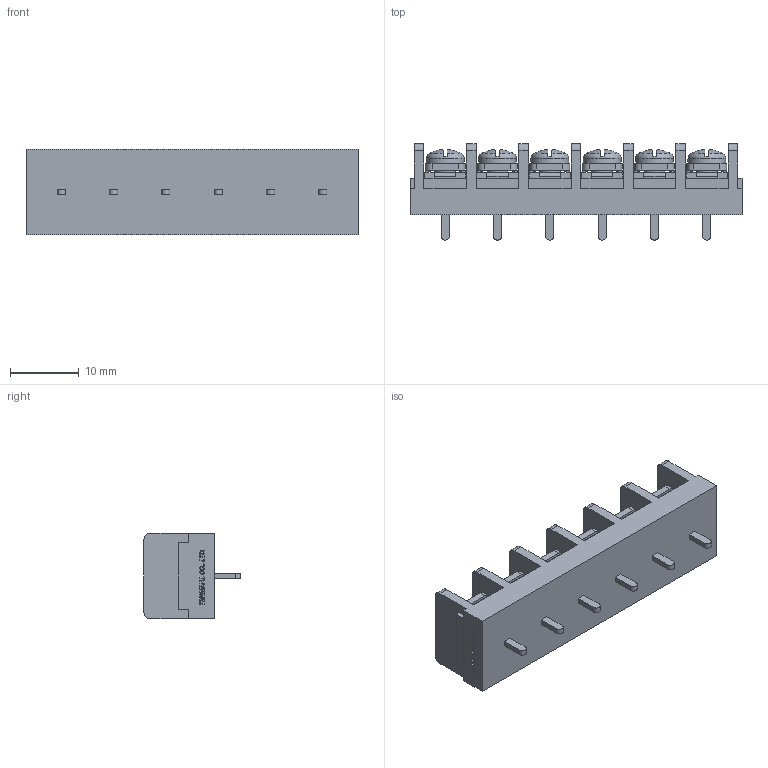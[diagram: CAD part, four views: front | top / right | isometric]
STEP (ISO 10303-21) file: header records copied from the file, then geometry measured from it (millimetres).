
FILE_DESCRIPTION(/* description */ ('Alibre Inc.'),/* implementation_level */ '2;1');
FILE_NAME(/* name */ 'export0',/* time_stamp */ '2015-10-26T16:47:35+09:00',/* author */ (''),/* organization */ (''),/* preprocessor_version */ 'ST-DEVELOPER v14',/* originating_system */ 'Alibre',/* authorisation */ '');
FILE_SCHEMA (('CONFIG_CONTROL_DESIGN'));
Length unit declared in the file: centimetre
Products named in the file (1): ID_1
Bounding box: 48.34 x 14 x 12.5 mm (x, y, z)
Volume: 4376.5 mm3; surface area: 4020.7 mm2
Topology: 1 solids, 1 shells, 962 faces, 2628 edges, 1732 vertices
Faces by surface type: plane 742, bspline 104, cylinder 68, cone 24, torus 12, sphere 12
Full cylindrical faces by diameter (mm): 3 x6, 5.5 x6
Entity records: 28949 total; most frequent: CARTESIAN_POINT 6443, ORIENTED_EDGE 5184, DIRECTION 3458, EDGE_CURVE 2592, VECTOR 1888, LINE 1888, VERTEX_POINT 1720, AXIS2_PLACEMENT_3D 1131
